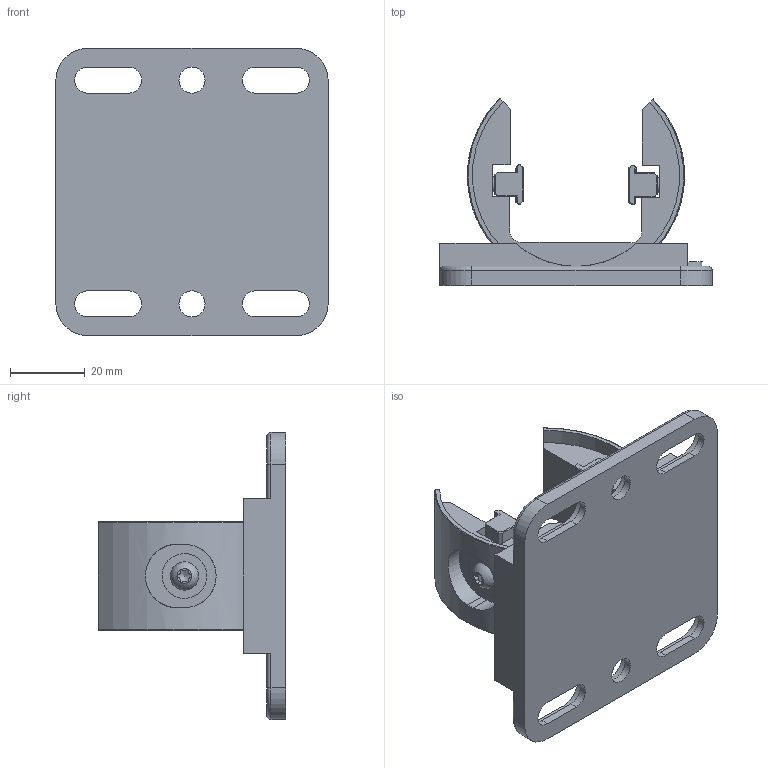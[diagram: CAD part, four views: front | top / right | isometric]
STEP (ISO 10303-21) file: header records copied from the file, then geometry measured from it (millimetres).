
FILE_DESCRIPTION(/* description */ (''),/* implementation_level */ '2;1');
FILE_NAME(/* name */ 'D:\_Vault\Workspace\Projektordner\Sensoren\PSENoptIII\Kundendaten\H304906_AMK_Kundendaten.stp',/* time_stamp */ '2016-06-30T11:42:25+02:00',/* author */ ('jeberle'),/* organization */ (''),/* preprocessor_version */ 'ST-DEVELOPER v16.5',/* originating_system */ 'Autodesk Inventor 2017',/* authorisation */ '');
FILE_SCHEMA (('AUTOMOTIVE_DESIGN { 1 0 10303 214 3 1 1 }'));
Length unit declared in the file: millimetre
Products named in the file (4): H304906; Fuehrungsplatte_Kundendaten; Profilbefestigung_Kundendatenl; H303992
Assembly tree (3 placements, depth 2):
  H304906
    Fuehrungsplatte_Kundendaten
    Profilbefestigung_Kundendatenl
    H303992
Bounding box: 73 x 50.17 x 77 mm (x, y, z)
Volume: 52691.1 mm3; surface area: 28153.3 mm2
Topology: 4 solids, 4 shells, 349 faces, 889 edges, 562 vertices
Faces by surface type: plane 187, cylinder 120, torus 28, bspline 8, cone 4, sphere 2
Full cylindrical faces by diameter (mm): 3.242 x2, 4 x2, 4.3 x2, 7 x2, 11.5 x2, 12 x2
Entity records: 10932 total; most frequent: CARTESIAN_POINT 2361, DIRECTION 1809, ORIENTED_EDGE 1718, EDGE_CURVE 859, AXIS2_PLACEMENT_3D 658, VERTEX_POINT 554, LINE 493, VECTOR 493
